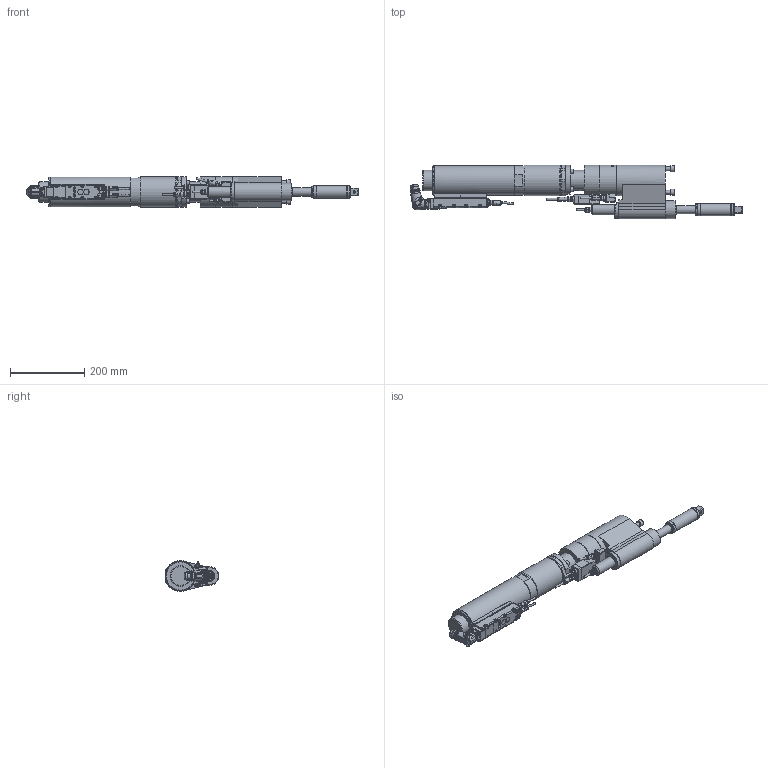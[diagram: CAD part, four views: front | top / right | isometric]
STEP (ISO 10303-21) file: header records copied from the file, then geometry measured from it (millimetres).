
FILE_DESCRIPTION (( 'STEP AP214' ), '1' );
FILE_NAME ('70082515_ESX350ZWRX500WX3AODX350-500.STEP', '2016-10-27T10:41:58', ( 'admin' ), ( '' ), 'SwSTEP 2.0', 'SolidWorks 2014', '' );
FILE_SCHEMA (( 'AUTOMOTIVE_DESIGN' ));
Length unit declared in the file: millimetre
Products named in the file (12): 7002133_3; 70082386; 70082362; 70082335; 70082310_ESX350_Standard_Winkel_2; 70082293_2; 70057493_Standard_winkel; 70057493_4; 70057493_3; 70057493_2; 70082310; 70082515_ESX350ZWRX500WX3AODX350-500
Assembly tree (12 placements, depth 4):
  70082515_ESX350ZWRX500WX3AODX350-500
    70082310_ESX350_Standard_Winkel_2
      70082310
      70057493_Standard_winkel
        70057493_2
        70057493_3
        70057493_4
      70082293_2  x2
    70082335
    70082362
    70082386
    7002133_3
Bounding box: 892.76 x 145.06 x 82 mm (x, y, z)
Volume: 4129391.8 mm3; surface area: 383144 mm2
Topology: 14 solids, 17 shells, 3473 faces, 9001 edges, 5801 vertices
Faces by surface type: plane 1663, cylinder 958, cone 495, bspline 271, torus 79, sphere 7
Full cylindrical faces by diameter (mm): 0.5 x14, 0.57 x14, 2 x3, 2.5 x1, 3 x4, 4.2 x1, 4.9 x6, 5 x14, 5.5 x13, 6 x2, 6.8 x8, 8 x28, 8.3 x1, 8.459 x2, 8.5 x1, 8.8 x1, 9 x7, 9.5 x1, 9.7 x1, 10 x3, 11.08 x4, 11.7 x1, 12 x2, 12.3 x3, 13 x5, 14 x7, 14.5 x2, 16 x3, 17.4 x1, 19.75 x2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
Entity records: 115516 total; most frequent: CARTESIAN_POINT 36602, ORIENTED_EDGE 16332, DIRECTION 14698, EDGE_CURVE 8166, AXIS2_PLACEMENT_3D 5544, VERTEX_POINT 5464, EDGE_LOOP 3978, LINE 3610
